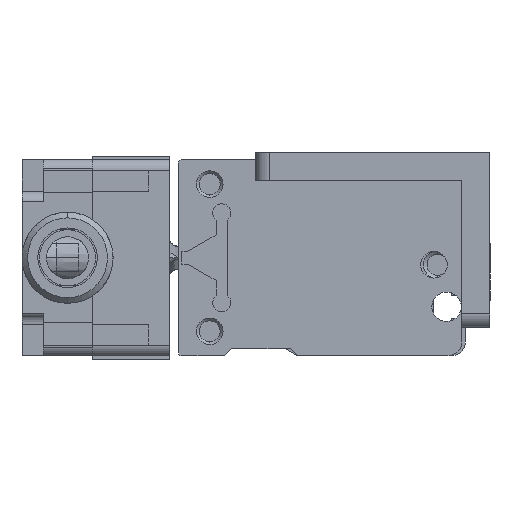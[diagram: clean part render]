
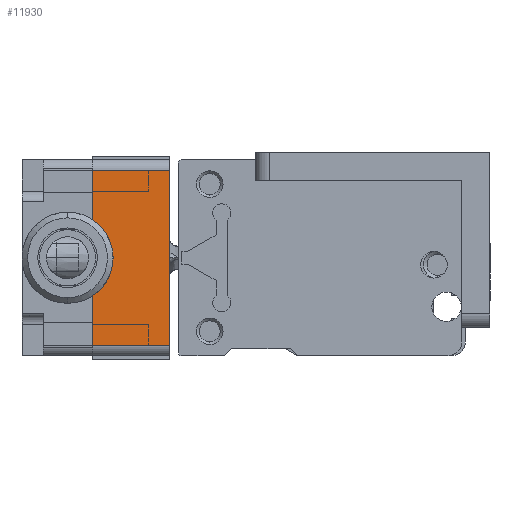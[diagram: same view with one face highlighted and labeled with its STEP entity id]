
A CAD part, left-side view. The second image highlights one B-rep face of the part: STEP entity #11930.
In plain terms, the highlighted planar face has unit normal (-1, 0, 0).
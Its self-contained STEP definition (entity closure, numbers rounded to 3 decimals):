
#1319 = CARTESIAN_POINT ( 'NONE',  ( -0.373, -56.938, -12.5 ) ) ;
#1320 = DIRECTION ( 'NONE',  ( 0., 1., 0. ) ) ;
#1321 = CARTESIAN_POINT ( 'NONE',  ( -0.373, -45.718, 15.08 ) ) ;
#1330 = DIRECTION ( 'NONE',  ( 0., 0., 1. ) ) ;
#1335 = CARTESIAN_POINT ( 'NONE',  ( -0.373, -45.718, 12.5 ) ) ;
#1336 = DIRECTION ( 'NONE',  ( 0., -1., 0. ) ) ;
#1337 = CARTESIAN_POINT ( 'NONE',  ( -0.373, -56.718, 15.08 ) ) ;
#1338 = DIRECTION ( 'NONE',  ( 0., 0., 1. ) ) ;
#1926 = DIRECTION ( 'NONE',  ( 0., 0., -1. ) ) ;
#1927 = DIRECTION ( 'NONE',  ( 1., 0., 0. ) ) ;
#1931 = PLANE ( 'NONE',  #11682 ) ;
#1932 = CARTESIAN_POINT ( 'NONE',  ( -0.373, -56.938, 13. ) ) ;
#3182 = CARTESIAN_POINT ( 'NONE',  ( -0.373, -45.718, 12.5 ) ) ;
#3358 = CARTESIAN_POINT ( 'NONE',  ( -0.373, -56.718, -12.5 ) ) ;
#3397 = CARTESIAN_POINT ( 'NONE',  ( -0.373, -45.718, -12.5 ) ) ;
#3587 = CARTESIAN_POINT ( 'NONE',  ( -0.373, -56.718, 12.5 ) ) ;
#4076 = FACE_OUTER_BOUND ( 'NONE', #16532, .T. ) ;
#7922 = VERTEX_POINT ( 'NONE', #3182 ) ;
#8140 = VERTEX_POINT ( 'NONE', #3587 ) ;
#8271 = VERTEX_POINT ( 'NONE', #3397 ) ;
#8298 = VERTEX_POINT ( 'NONE', #3358 ) ;
#11682 = AXIS2_PLACEMENT_3D ( 'NONE', #1932, #1927, #1926 ) ;
#11930 = ADVANCED_FACE ( 'NONE', ( #4076 ), #1931, .F. ) ;
#15370 = ORIENTED_EDGE ( 'NONE', *, *, #16756, .T. ) ;
#15371 = ORIENTED_EDGE ( 'NONE', *, *, #16755, .F. ) ;
#15372 = ORIENTED_EDGE ( 'NONE', *, *, #16752, .F. ) ;
#15373 = ORIENTED_EDGE ( 'NONE', *, *, #16748, .F. ) ;
#16532 = EDGE_LOOP ( 'NONE', ( #15370, #15371, #15372, #15373 ) ) ;
#16748 = EDGE_CURVE ( 'NONE', #8298, #8271, #18309, .T. ) ;
#16752 = EDGE_CURVE ( 'NONE', #8271, #7922, #18315, .T. ) ;
#16755 = EDGE_CURVE ( 'NONE', #7922, #8140, #18319, .T. ) ;
#16756 = EDGE_CURVE ( 'NONE', #8298, #8140, #18321, .T. ) ;
#18300 = VECTOR ( 'NONE', #1330, 1000. ) ;
#18309 = LINE ( 'NONE', #1319, #18310 ) ;
#18310 = VECTOR ( 'NONE', #1320, 1000. ) ;
#18315 = LINE ( 'NONE', #1321, #18300 ) ;
#18319 = LINE ( 'NONE', #1335, #18320 ) ;
#18320 = VECTOR ( 'NONE', #1336, 1000. ) ;
#18321 = LINE ( 'NONE', #1337, #18322 ) ;
#18322 = VECTOR ( 'NONE', #1338, 1000. ) ;
